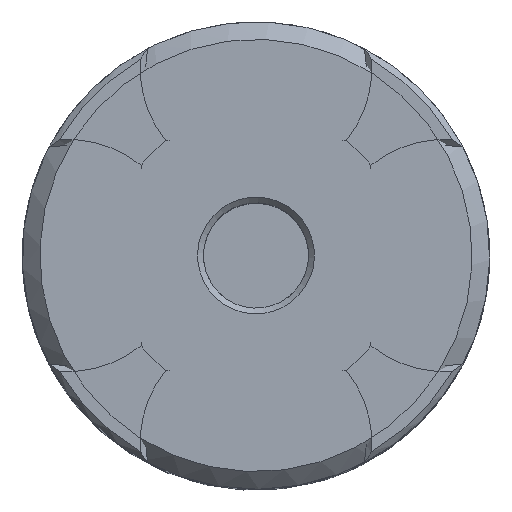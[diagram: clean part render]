
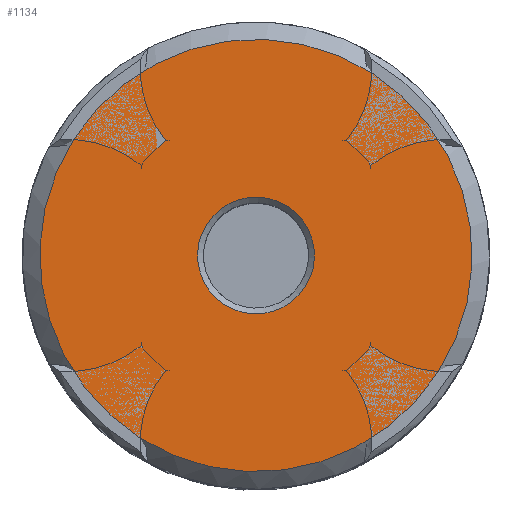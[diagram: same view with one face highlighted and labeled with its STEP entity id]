
A CAD part, top view. The second image highlights one B-rep face of the part: STEP entity #1134.
In plain terms, the highlighted planar face has unit normal (0, 0, 1) as drawn and (0, 0, -1) by its records, which use the part's own axes.
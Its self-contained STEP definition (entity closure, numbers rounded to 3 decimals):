
#1134 = ADVANCED_FACE( '', ( #2123, #2124 ), #2125, .T. );
#2123 = FACE_OUTER_BOUND( '', #2578, .T. );
#2124 = FACE_BOUND( '', #2579, .T. );
#2125 = PLANE( '', #2580 );
#2578 = EDGE_LOOP( '', ( #3416 ) );
#2579 = EDGE_LOOP( '', ( #3417 ) );
#2580 = AXIS2_PLACEMENT_3D( '', #3418, #3419, #3420 );
#3416 = ORIENTED_EDGE( '', *, *, #4354, .T. );
#3417 = ORIENTED_EDGE( '', *, *, #4361, .T. );
#3418 = CARTESIAN_POINT( '', ( 0., 0., 0. ) );
#3419 = DIRECTION( '', ( 0., 0., -1. ) );
#3420 = DIRECTION( '', ( 0., -1., 0. ) );
#4354 = EDGE_CURVE( '', #4998, #4998, #4999, .T. );
#4361 = EDGE_CURVE( '', #5006, #5006, #5007, .F. );
#4998 = VERTEX_POINT( '', #5543 );
#4999 = CIRCLE( '', #5544, 37. );
#5006 = VERTEX_POINT( '', #5564 );
#5007 = CIRCLE( '', #5565, 10. );
#5543 = CARTESIAN_POINT( '', ( -37., 0., 0. ) );
#5544 = AXIS2_PLACEMENT_3D( '', #5769, #5770, #5771 );
#5564 = CARTESIAN_POINT( '', ( -10., 0., 0. ) );
#5565 = AXIS2_PLACEMENT_3D( '', #5778, #5779, #5780 );
#5769 = CARTESIAN_POINT( '', ( 0., 0., 0. ) );
#5770 = DIRECTION( '', ( 0., 0., -1. ) );
#5771 = DIRECTION( '', ( -1., 0., 0. ) );
#5778 = CARTESIAN_POINT( '', ( 0., 0., 0. ) );
#5779 = DIRECTION( '', ( 0., 0., -1. ) );
#5780 = DIRECTION( '', ( -1., 0., 0. ) );
